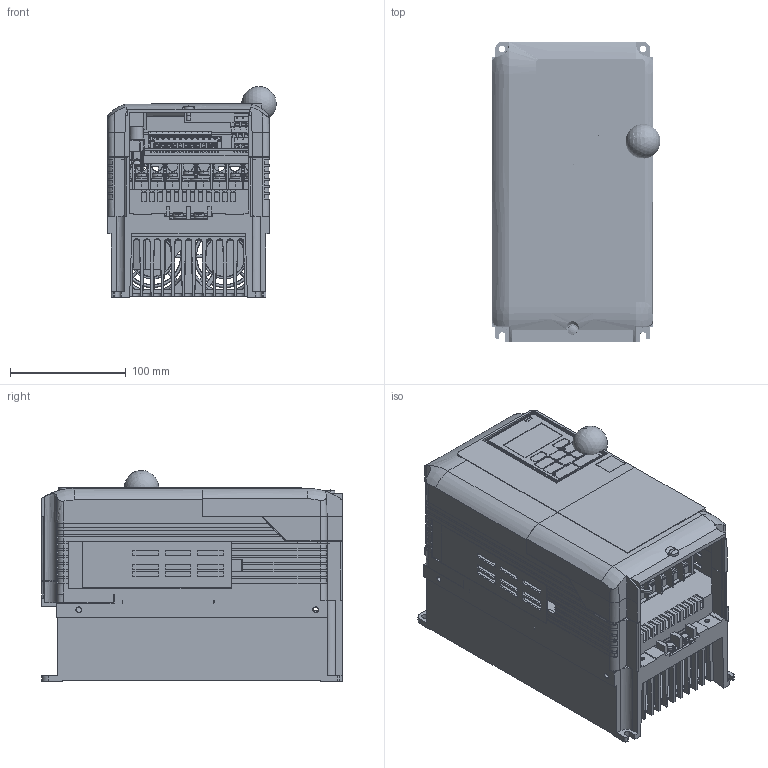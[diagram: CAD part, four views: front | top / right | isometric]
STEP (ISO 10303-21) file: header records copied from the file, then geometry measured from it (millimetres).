
FILE_DESCRIPTION((''),'2;1');
FILE_NAME('SM_R1K_FR1_N1_ASM','2021-08-27T',('anm'),('YASKAWA ELECTRIC CORCORATION'),'PRO/ENGINEER BY PARAMETRIC TECHNOLOGY CORPORATION, 2017170','PRO/ENGINEER BY PARAMETRIC TECHNOLOGY CORPORATION, 2017170','');
FILE_SCHEMA(('AUTOMOTIVE_DESIGN { 1 0 10303 214 1 1 1 1 }'));
Products named in the file (7): RU2A0007FAA_BASE; RU2A0007FAA_COVER1; RU2A0007FAA_DIGOP; RU2A0007FAA_COVER2; RU2A0007FAA_COVER3; RU2A0007FAA_ASM_ASM; SM_R1K_FR1_N1_ASM
Assembly tree (6 placements, depth 3):
  SM_R1K_FR1_N1_ASM
    RU2A0007FAA_ASM_ASM
      RU2A0007FAA_BASE
      RU2A0007FAA_COVER1
      RU2A0007FAA_DIGOP
      RU2A0007FAA_COVER2
      RU2A0007FAA_COVER3
Bounding box: 146 x 260 x 182.38 mm (x, y, z)
Surface area: 864373.5 mm2 (no closed solid volume)
Topology: 0 solids, 0 shells, 5267 faces, 30151 edges, 30013 vertices
Faces by surface type: bspline 5117, torus 120, sphere 30
Entity records: 447149 total; most frequent: CARTESIAN_POINT 168376, DIRECTION 43611, TRIMMED_CURVE 40599, VECTOR 37923, LINE 37923, DEFINITIONAL_REPRESENTATION 29914, PCURVE 29914, COMPOSITE_CURVE_SEGMENT 29914
